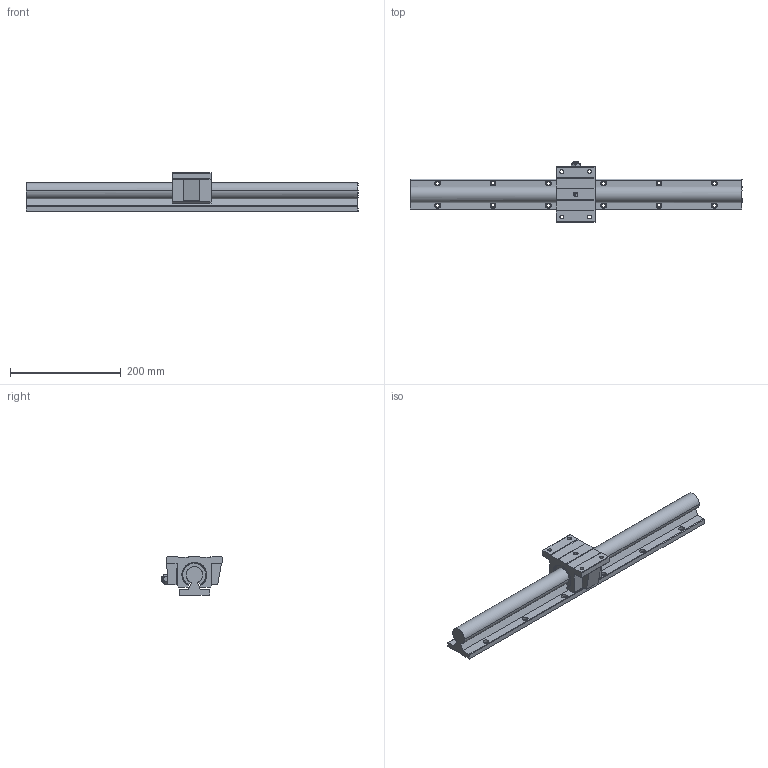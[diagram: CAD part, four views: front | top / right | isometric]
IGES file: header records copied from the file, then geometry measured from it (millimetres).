
Global section: file name: No Iges File Name specified; native system: AutoDesk Inventor R11.0; preprocessor: AutoDesk Inventor Iges Exporter R11.0; author: No Author specified; organization: No Organization specified; date: 20150528.091146; units: millimetre
Bounding box: 600 x 108.5 x 70 mm (x, y, z)
Surface area: 176977.5 mm2 (no closed solid volume)
Topology: 0 solids, 0 shells, 202 faces, 1442 edges, 1438 vertices
Faces by surface type: bspline 202
